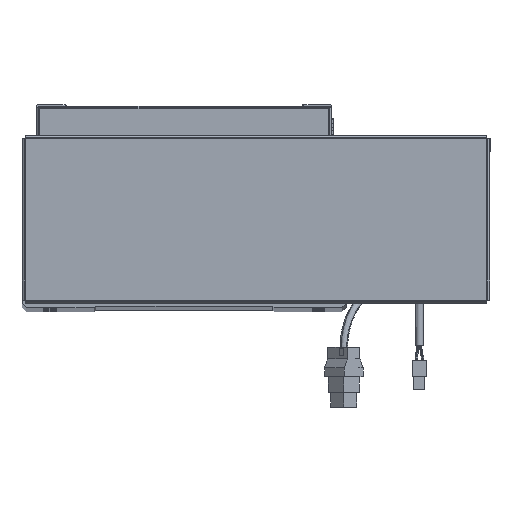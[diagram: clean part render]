
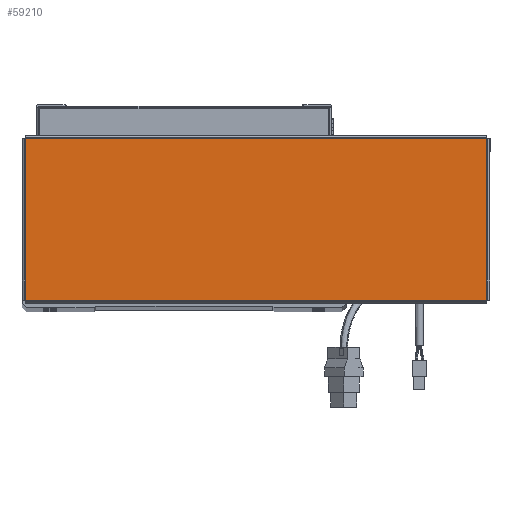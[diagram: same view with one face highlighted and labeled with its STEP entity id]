
A CAD part, top view. The second image highlights one B-rep face of the part: STEP entity #59210.
In plain terms, the highlighted planar face has unit normal (0, 0, 1).
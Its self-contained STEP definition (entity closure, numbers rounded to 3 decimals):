
#2089 = PLANE ( 'NONE',  #15359 ) ;
#7168 = DIRECTION ( 'NONE',  ( 1., 0., 0. ) ) ;
#7701 = LINE ( 'NONE', #26619, #22543 ) ;
#8072 = CARTESIAN_POINT ( 'NONE',  ( 156.543, 54.763, 0. ) ) ;
#10183 = EDGE_CURVE ( 'NONE', #29791, #24142, #44459, .T. ) ;
#10451 = CARTESIAN_POINT ( 'NONE',  ( 156.513, -54.763, 0. ) ) ;
#11474 = VECTOR ( 'NONE', #51188, 1000. ) ;
#11825 = EDGE_LOOP ( 'NONE', ( #54034, #28417, #52244, #12443 ) ) ;
#12038 = CARTESIAN_POINT ( 'NONE',  ( 0., 0., 0. ) ) ;
#12147 = DIRECTION ( 'NONE',  ( 1., 0., 0. ) ) ;
#12443 = ORIENTED_EDGE ( 'NONE', *, *, #47187, .T. ) ;
#12884 = LINE ( 'NONE', #32002, #58316 ) ;
#13947 = LINE ( 'NONE', #54823, #59330 ) ;
#15359 = AXIS2_PLACEMENT_3D ( 'NONE', #12038, #60247, #7168 ) ;
#15563 = CARTESIAN_POINT ( 'NONE',  ( 156.513, 54.763, 0. ) ) ;
#16118 = FACE_OUTER_BOUND ( 'NONE', #11825, .T. ) ;
#22379 = CARTESIAN_POINT ( 'NONE',  ( -156.513, -54.763, 0. ) ) ;
#22543 = VECTOR ( 'NONE', #32137, 1000. ) ;
#24142 = VERTEX_POINT ( 'NONE', #51223 ) ;
#26619 = CARTESIAN_POINT ( 'NONE',  ( -156.513, 54.793, 0. ) ) ;
#28417 = ORIENTED_EDGE ( 'NONE', *, *, #58083, .T. ) ;
#29791 = VERTEX_POINT ( 'NONE', #15563 ) ;
#31573 = DIRECTION ( 'NONE',  ( 0., 1., 0. ) ) ;
#32002 = CARTESIAN_POINT ( 'NONE',  ( 156.513, -54.793, 0. ) ) ;
#32137 = DIRECTION ( 'NONE',  ( 0., -1., 0. ) ) ;
#36585 = VERTEX_POINT ( 'NONE', #10451 ) ;
#40850 = VERTEX_POINT ( 'NONE', #22379 ) ;
#44459 = LINE ( 'NONE', #8072, #11474 ) ;
#47187 = EDGE_CURVE ( 'NONE', #24142, #40850, #7701, .T. ) ;
#51188 = DIRECTION ( 'NONE',  ( -1., 0., 0. ) ) ;
#51223 = CARTESIAN_POINT ( 'NONE',  ( -156.513, 54.763, 0. ) ) ;
#52244 = ORIENTED_EDGE ( 'NONE', *, *, #10183, .T. ) ;
#54034 = ORIENTED_EDGE ( 'NONE', *, *, #63623, .T. ) ;
#54823 = CARTESIAN_POINT ( 'NONE',  ( -156.543, -54.763, 0. ) ) ;
#58083 = EDGE_CURVE ( 'NONE', #36585, #29791, #12884, .T. ) ;
#58316 = VECTOR ( 'NONE', #31573, 1000. ) ;
#59210 = ADVANCED_FACE ( 'NONE', ( #16118 ), #2089, .T. ) ;
#59330 = VECTOR ( 'NONE', #12147, 1000. ) ;
#60247 = DIRECTION ( 'NONE',  ( 0., 0., 1. ) ) ;
#63623 = EDGE_CURVE ( 'NONE', #40850, #36585, #13947, .T. ) ;
